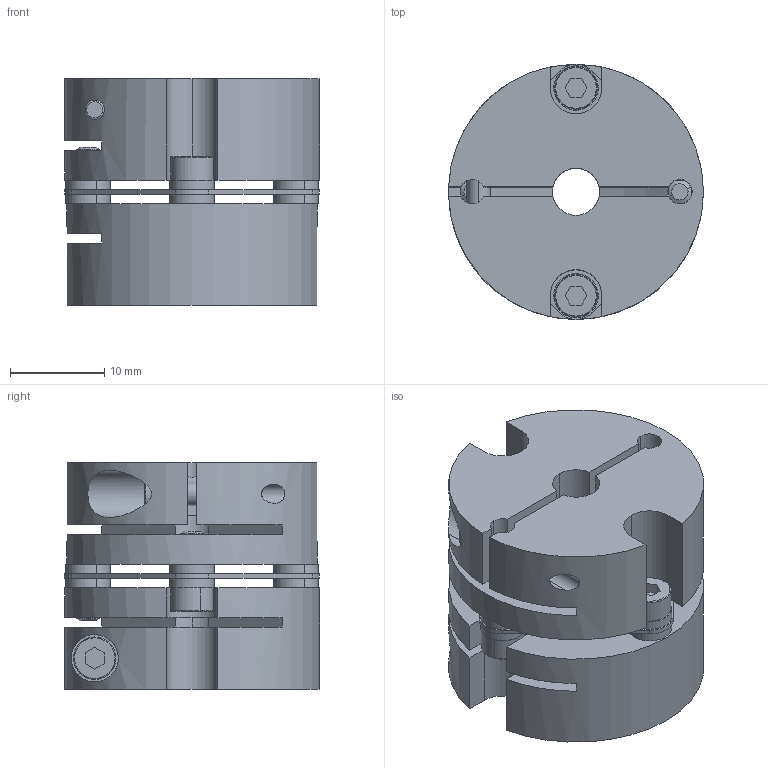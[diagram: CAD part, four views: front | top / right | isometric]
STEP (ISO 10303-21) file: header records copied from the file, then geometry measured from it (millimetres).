
FILE_DESCRIPTION (( 'STEP AP214' ), '1' );
FILE_NAME ('LC-A-025SA-5B-5B-T001.STEP', '2019-09-12T07:16:01', ( 'admin' ), ( 'Microsoft' ), 'SwSTEP 2.0', 'SolidWorks 2016', '' );
FILE_SCHEMA (( 'AUTOMOTIVE_DESIGN' ));
Length unit declared in the file: millimetre
Products named in the file (1): LC-A-025SA-5B-5B-T001
Bounding box: 27 x 27 x 24 mm (x, y, z)
Volume: 10261.9 mm3; surface area: 7820.5 mm2
Topology: 17 solids, 17 shells, 285 faces, 693 edges, 450 vertices
Faces by surface type: cylinder 125, plane 124, torus 24, cone 12
Entity records: 12142 total; most frequent: CARTESIAN_POINT 1789, DIRECTION 1551, ORIENTED_EDGE 1386, EDGE_CURVE 693, AXIS2_PLACEMENT_3D 600, VERTEX_POINT 450, LINE 351, VECTOR 351
